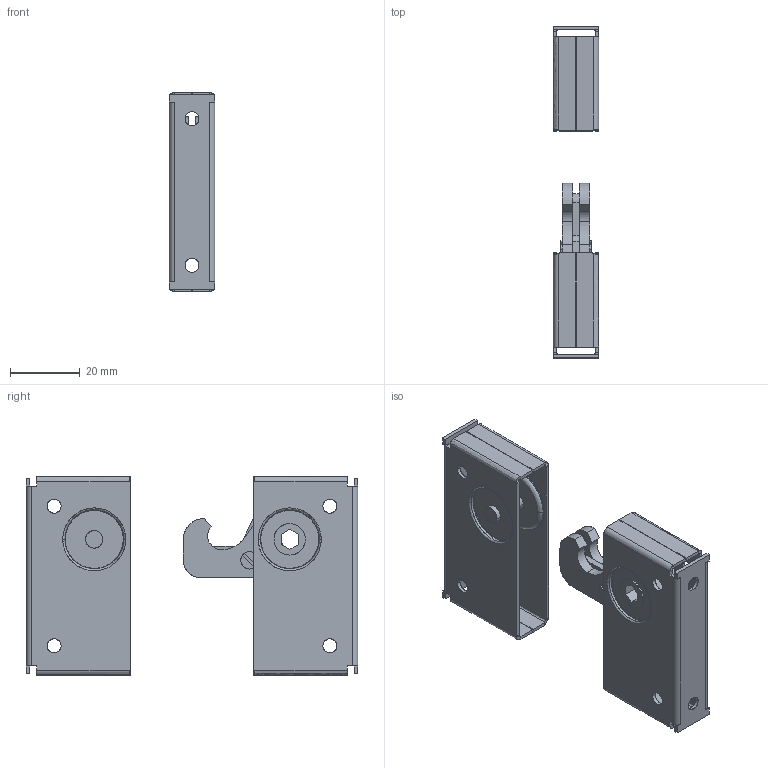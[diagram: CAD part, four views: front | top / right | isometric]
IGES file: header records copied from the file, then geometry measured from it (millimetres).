
Start section: SolidWorks IGES file using analytic representation for surfaces
Global section: file name: D:\尚坤工业图纸\SK1--门锁系列\SK1-R5-005\SK1-R5-005.IGS; native system: SolidWorks 2015; preprocessor: SolidWorks 2015; author: admin; date: 181101.115019; units: millimetre
Bounding box: 13 x 95 x 57 mm (x, y, z)
Surface area: 22936.5 mm2 (no closed solid volume)
Topology: 0 solids, 0 shells, 314 faces, 3720 edges, 3720 vertices
Faces by surface type: bspline 198, revolution 116
